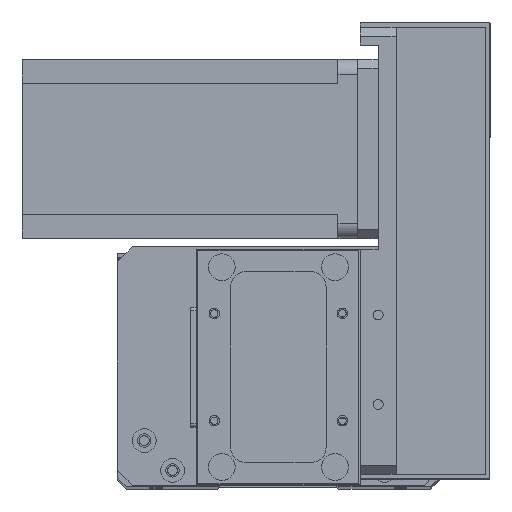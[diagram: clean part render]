
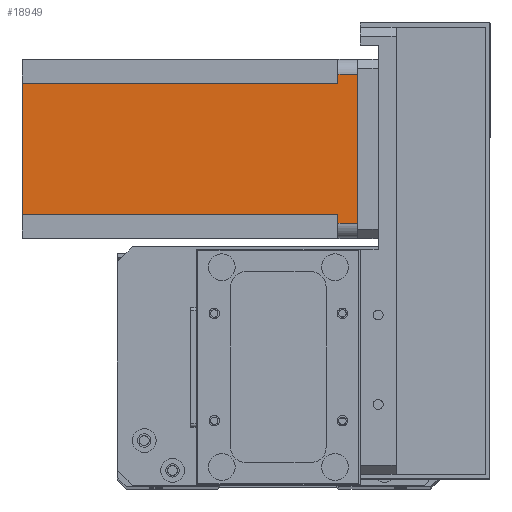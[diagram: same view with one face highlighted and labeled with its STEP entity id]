
A CAD part, top view. The second image highlights one B-rep face of the part: STEP entity #18949.
In plain terms, the highlighted planar face has unit normal (0, 0, 1) as drawn and (0, 1, 0) by its records, which use the part's own axes.
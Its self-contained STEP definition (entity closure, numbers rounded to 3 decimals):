
#3 = ORIENTED_EDGE ( 'NONE', *, *, #1010, .F. ) ;
#472 = CARTESIAN_POINT ( 'NONE',  ( 0., 60., 0. ) ) ;
#532 = EDGE_CURVE ( 'NONE', #5865, #10820, #28757, .T. ) ;
#1010 = EDGE_CURVE ( 'NONE', #25878, #24207, #16147, .T. ) ;
#1492 = CARTESIAN_POINT ( 'NONE',  ( 8., 60., -6.5 ) ) ;
#2481 = LINE ( 'NONE', #1492, #13689 ) ;
#2921 = DIRECTION ( 'NONE',  ( 0., 1., 0. ) ) ;
#3170 = CARTESIAN_POINT ( 'NONE',  ( 5., 60., -6.5 ) ) ;
#4231 = LINE ( 'NONE', #25572, #15434 ) ;
#5177 = VERTEX_POINT ( 'NONE', #7591 ) ;
#5364 = CARTESIAN_POINT ( 'NONE',  ( 8., 60., -112.5 ) ) ;
#5683 = VECTOR ( 'NONE', #11583, 1000. ) ;
#5865 = VERTEX_POINT ( 'NONE', #12171 ) ;
#5901 = ORIENTED_EDGE ( 'NONE', *, *, #14008, .T. ) ;
#6428 = ORIENTED_EDGE ( 'NONE', *, *, #532, .F. ) ;
#6680 = CARTESIAN_POINT ( 'NONE',  ( 55., 60., 0. ) ) ;
#6723 = FACE_OUTER_BOUND ( 'NONE', #22811, .T. ) ;
#7591 = CARTESIAN_POINT ( 'NONE',  ( 5., 60., 0. ) ) ;
#8219 = CARTESIAN_POINT ( 'NONE',  ( 52., 60., -112.5 ) ) ;
#8453 = VERTEX_POINT ( 'NONE', #6680 ) ;
#8838 = ORIENTED_EDGE ( 'NONE', *, *, #27381, .T. ) ;
#9814 = CARTESIAN_POINT ( 'NONE',  ( 8., 60., -112.5 ) ) ;
#9986 = VERTEX_POINT ( 'NONE', #3170 ) ;
#10820 = VERTEX_POINT ( 'NONE', #26869 ) ;
#11583 = DIRECTION ( 'NONE',  ( 0., 0., -1. ) ) ;
#11643 = LINE ( 'NONE', #27089, #5683 ) ;
#11653 = ORIENTED_EDGE ( 'NONE', *, *, #20338, .T. ) ;
#11743 = DIRECTION ( 'NONE',  ( -1., 0., 0. ) ) ;
#12041 = DIRECTION ( 'NONE',  ( 0., 0., -1. ) ) ;
#12171 = CARTESIAN_POINT ( 'NONE',  ( 52., 60., -6.5 ) ) ;
#12737 = CARTESIAN_POINT ( 'NONE',  ( 8., 60., -6.5 ) ) ;
#13332 = CARTESIAN_POINT ( 'NONE',  ( 52., 60., -112.5 ) ) ;
#13583 = CARTESIAN_POINT ( 'NONE',  ( 5., 60., -112.5 ) ) ;
#13689 = VECTOR ( 'NONE', #17141, 1000. ) ;
#13767 = VERTEX_POINT ( 'NONE', #8219 ) ;
#13954 = AXIS2_PLACEMENT_3D ( 'NONE', #16328, #2921, #18580 ) ;
#14008 = EDGE_CURVE ( 'NONE', #9986, #5177, #26668, .T. ) ;
#14295 = ORIENTED_EDGE ( 'NONE', *, *, #27733, .F. ) ;
#15434 = VECTOR ( 'NONE', #27811, 1000. ) ;
#15458 = VECTOR ( 'NONE', #11743, 1000. ) ;
#15568 = DIRECTION ( 'NONE',  ( 0., 0., 1. ) ) ;
#16147 = LINE ( 'NONE', #9814, #27325 ) ;
#16328 = CARTESIAN_POINT ( 'NONE',  ( 0., 60., -112.5 ) ) ;
#16894 = VECTOR ( 'NONE', #22959, 1000. ) ;
#17141 = DIRECTION ( 'NONE',  ( -1., 0., 0. ) ) ;
#18205 = VECTOR ( 'NONE', #15568, 1000. ) ;
#18580 = DIRECTION ( 'NONE',  ( 0., 0., 1. ) ) ;
#18787 = EDGE_CURVE ( 'NONE', #8453, #10820, #11643, .T. ) ;
#18949 = ADVANCED_FACE ( 'NONE', ( #6723 ), #27453, .T. ) ;
#20338 = EDGE_CURVE ( 'NONE', #25878, #9986, #2481, .T. ) ;
#20441 = CARTESIAN_POINT ( 'NONE',  ( 52., 60., -6.5 ) ) ;
#20761 = VECTOR ( 'NONE', #26935, 1000. ) ;
#21418 = LINE ( 'NONE', #472, #15458 ) ;
#22811 = EDGE_LOOP ( 'NONE', ( #26993, #26082, #6428, #14295, #8838, #3, #11653, #5901 ) ) ;
#22959 = DIRECTION ( 'NONE',  ( 1., 0., 0. ) ) ;
#24146 = LINE ( 'NONE', #13332, #18205 ) ;
#24207 = VERTEX_POINT ( 'NONE', #5364 ) ;
#25572 = CARTESIAN_POINT ( 'NONE',  ( 0., 60., -112.5 ) ) ;
#25878 = VERTEX_POINT ( 'NONE', #12737 ) ;
#26082 = ORIENTED_EDGE ( 'NONE', *, *, #18787, .T. ) ;
#26199 = EDGE_CURVE ( 'NONE', #8453, #5177, #21418, .T. ) ;
#26668 = LINE ( 'NONE', #13583, #20761 ) ;
#26869 = CARTESIAN_POINT ( 'NONE',  ( 55., 60., -6.5 ) ) ;
#26935 = DIRECTION ( 'NONE',  ( 0., 0., 1. ) ) ;
#26993 = ORIENTED_EDGE ( 'NONE', *, *, #26199, .F. ) ;
#27089 = CARTESIAN_POINT ( 'NONE',  ( 55., 60., -112.5 ) ) ;
#27325 = VECTOR ( 'NONE', #12041, 1000. ) ;
#27381 = EDGE_CURVE ( 'NONE', #13767, #24207, #4231, .T. ) ;
#27453 = PLANE ( 'NONE',  #13954 ) ;
#27733 = EDGE_CURVE ( 'NONE', #13767, #5865, #24146, .T. ) ;
#27811 = DIRECTION ( 'NONE',  ( -1., 0., 0. ) ) ;
#28757 = LINE ( 'NONE', #20441, #16894 ) ;
